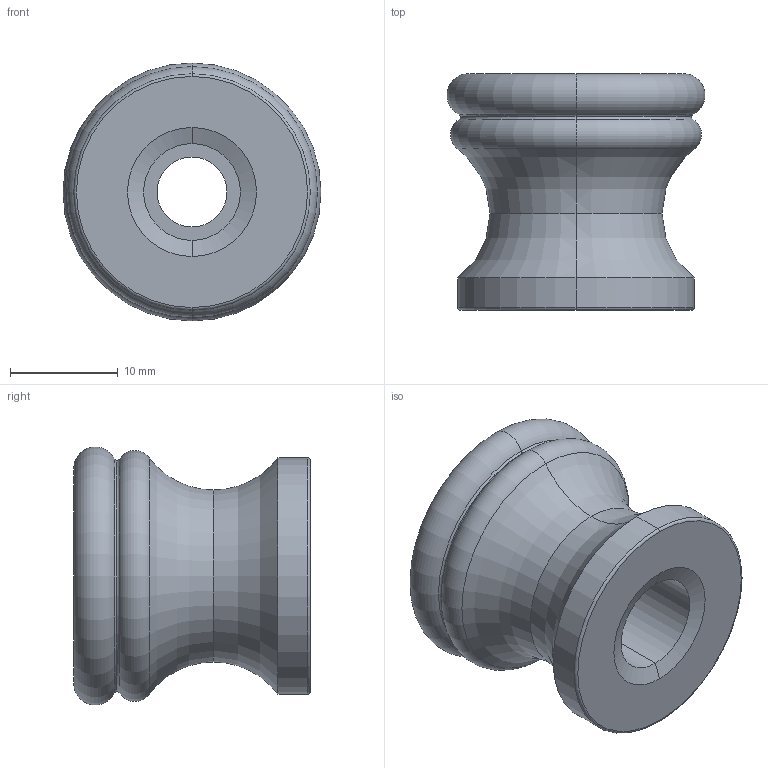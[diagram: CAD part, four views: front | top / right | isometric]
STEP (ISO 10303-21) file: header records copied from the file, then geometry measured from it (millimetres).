
FILE_DESCRIPTION (( 'STEP AP203' ), '1' );
FILE_NAME ('connector.STEP', '2005-06-15T16:25:32', ( 'A-S Koh' ), ( 'askoh.com' ), 'SwSTEP 2.0', 'SolidWorks 2004231', '' );
FILE_SCHEMA (( 'CONFIG_CONTROL_DESIGN' ));
Length unit declared in the file: millimetre
Products named in the file (1): connector
Bounding box: 23.99 x 22 x 23.99 mm (x, y, z)
Volume: 4686.1 mm3; surface area: 3306.1 mm2
Topology: 1 solids, 1 shells, 39 faces, 78 edges, 44 vertices
Faces by surface type: torus 20, cylinder 10, plane 5, cone 4
Entity records: 1105 total; most frequent: DIRECTION 222, CARTESIAN_POINT 162, ORIENTED_EDGE 156, AXIS2_PLACEMENT_3D 104, EDGE_CURVE 78, CIRCLE 64, EDGE_LOOP 44, VERTEX_POINT 44
